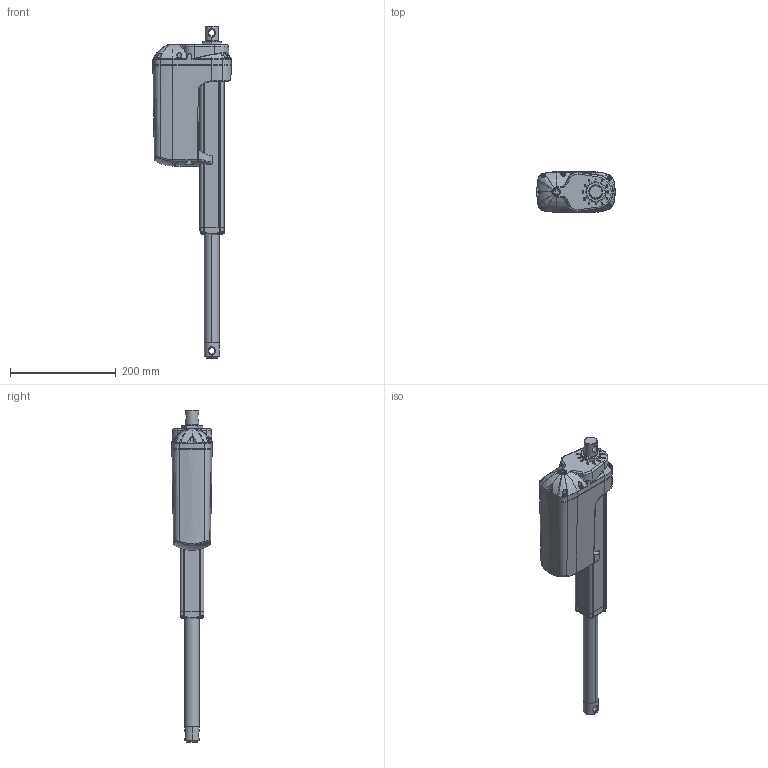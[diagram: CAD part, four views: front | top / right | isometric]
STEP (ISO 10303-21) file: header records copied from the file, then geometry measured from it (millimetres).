
FILE_DESCRIPTION((''),'2;1');
FILE_NAME('0362125_ASM','2024-09-04T11:34:24',('sota'),(''),'CREO PARAMETRIC BY PTC INC, 2022024','CREO PARAMETRIC BY PTC INC, 2022024','');
FILE_SCHEMA(('AUTOMOTIVE_DESIGN { 1 0 10303 214 1 1 1 1 }'));
Products named in the file (5): LA36-VIB-SHELL-0361437-H; LA36-SHELL-3420120-OT; SHELL-0361109; LA36-SHELL-0361714-BF; 0362125_ASM
Assembly tree (4 placements, depth 2):
  0362125_ASM
    LA36-VIB-SHELL-0361437-H
    LA36-SHELL-3420120-OT
    SHELL-0361109
    LA36-SHELL-0361714-BF
Bounding box: 147.73 x 76 x 626.5 mm (x, y, z)
Volume: 2492496 mm3; surface area: 226319.2 mm2
Topology: 4 solids, 4 shells, 2901 faces, 7832 edges, 5006 vertices
Faces by surface type: plane 1648, cylinder 375, bspline 358, extrusion 286, cone 121, torus 72, sphere 41
Entity records: 118876 total; most frequent: CARTESIAN_POINT 51018, ORIENTED_EDGE 15614, DIRECTION 11260, EDGE_CURVE 7807, VECTOR 5016, VERTEX_POINT 5006, LINE 4730, AXIS2_PLACEMENT_3D 3122
